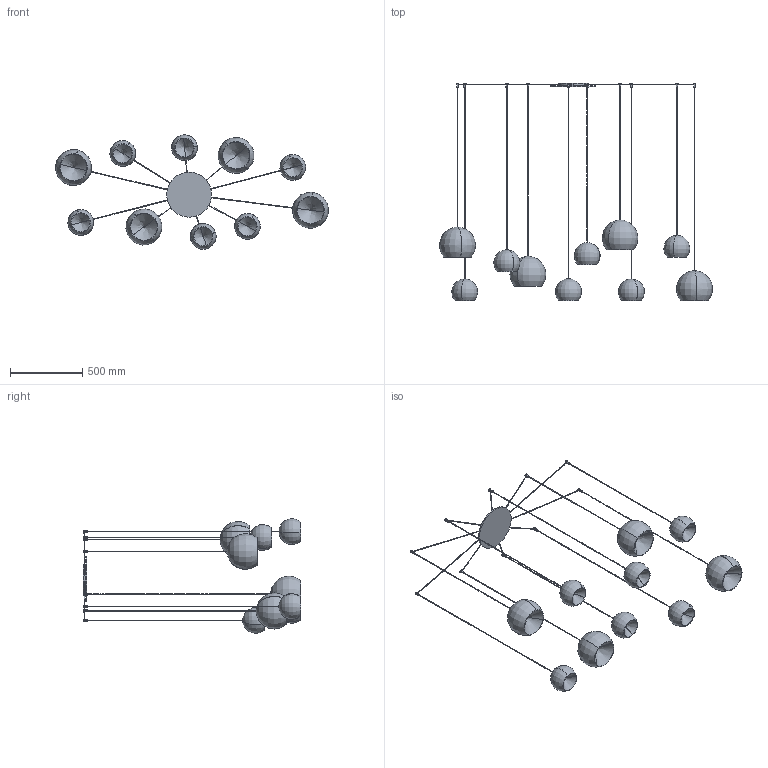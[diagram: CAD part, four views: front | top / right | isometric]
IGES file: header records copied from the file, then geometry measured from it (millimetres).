
Start section: SolidWorks IGES file using analytic representation for surfaces
Global section: file name: Y:\eforma\TECNICO\SOLIDWORKS\E-FORMA\09-LAMPADE\CHERRY MIX\02 parts\CRMA7-00-CHERRY MIX_10 sospensione.IGS; native system: SolidWorks 2022; preprocessor: SolidWorks 2022; author: eforma.tech; date: 250520.153555; units: millimetre
Bounding box: 1884.66 x 1500 x 790.17 mm (x, y, z)
Volume: 4004665.6 mm3; surface area: 3267083.9 mm2
Topology: 51 solids, 51 shells, 375 faces, 792 edges, 500 vertices
Faces by surface type: revolution 252, plane 123
